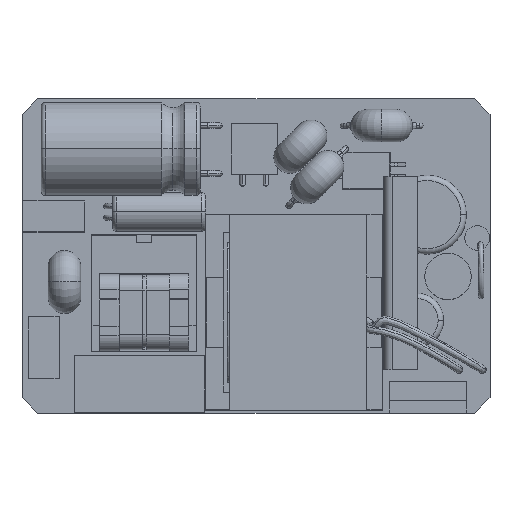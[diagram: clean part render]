
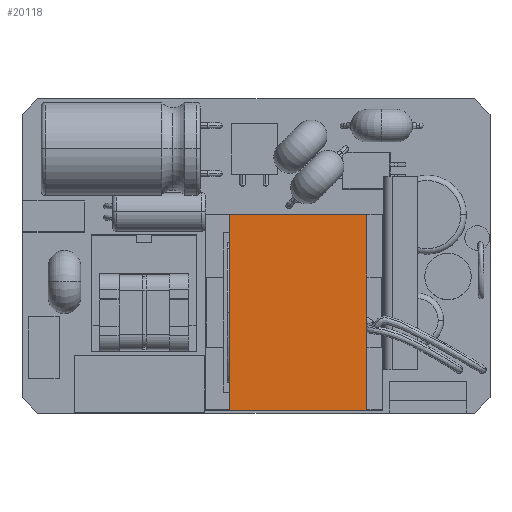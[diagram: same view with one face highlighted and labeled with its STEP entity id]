
A CAD part, top view. The second image highlights one B-rep face of the part: STEP entity #20118.
In plain terms, the highlighted planar face has unit normal (0, 0, 1).
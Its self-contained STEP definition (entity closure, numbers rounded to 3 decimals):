
#2233 = LINE ( 'NONE', #2798, #21878 ) ;
#2430 = CARTESIAN_POINT ( 'NONE',  ( 75.644, 86.568, 16.7 ) ) ;
#2798 = CARTESIAN_POINT ( 'NONE',  ( 93.35, 86.568, 16.7 ) ) ;
#4294 = EDGE_CURVE ( 'NONE', #14590, #9035, #8850, .T. ) ;
#4600 = DIRECTION ( 'NONE',  ( 1., 0., 0. ) ) ;
#6119 = VECTOR ( 'NONE', #8098, 1000. ) ;
#6388 = ORIENTED_EDGE ( 'NONE', *, *, #4294, .F. ) ;
#6738 = ORIENTED_EDGE ( 'NONE', *, *, #20467, .T. ) ;
#7598 = ORIENTED_EDGE ( 'NONE', *, *, #22284, .T. ) ;
#7865 = ORIENTED_EDGE ( 'NONE', *, *, #22782, .F. ) ;
#8098 = DIRECTION ( 'NONE',  ( 0., -1., 0. ) ) ;
#8361 = DIRECTION ( 'NONE',  ( 0., -1., 0. ) ) ;
#8529 = DIRECTION ( 'NONE',  ( 0., 0., -1. ) ) ;
#8704 = LINE ( 'NONE', #20214, #23997 ) ;
#8779 = DIRECTION ( 'NONE',  ( 1., 0., 0. ) ) ;
#8850 = LINE ( 'NONE', #23771, #22931 ) ;
#9035 = VERTEX_POINT ( 'NONE', #21482 ) ;
#11454 = FACE_OUTER_BOUND ( 'NONE', #15991, .T. ) ;
#12145 = CARTESIAN_POINT ( 'NONE',  ( 75.644, 86.568, 16.7 ) ) ;
#12295 = PLANE ( 'NONE',  #16550 ) ;
#12350 = LINE ( 'NONE', #2430, #6119 ) ;
#13625 = CARTESIAN_POINT ( 'NONE',  ( 75.644, 61.314, 16.7 ) ) ;
#14590 = VERTEX_POINT ( 'NONE', #12145 ) ;
#15991 = EDGE_LOOP ( 'NONE', ( #6388, #6738, #7598, #7865 ) ) ;
#16550 = AXIS2_PLACEMENT_3D ( 'NONE', #19979, #8529, #21923 ) ;
#18116 = VERTEX_POINT ( 'NONE', #13625 ) ;
#18745 = VERTEX_POINT ( 'NONE', #22843 ) ;
#19979 = CARTESIAN_POINT ( 'NONE',  ( 0., 0., 16.7 ) ) ;
#20118 = ADVANCED_FACE ( 'NONE', ( #11454 ), #12295, .F. ) ;
#20214 = CARTESIAN_POINT ( 'NONE',  ( 75.644, 61.314, 16.7 ) ) ;
#20467 = EDGE_CURVE ( 'NONE', #14590, #18116, #12350, .T. ) ;
#21482 = CARTESIAN_POINT ( 'NONE',  ( 93.35, 86.568, 16.7 ) ) ;
#21878 = VECTOR ( 'NONE', #8361, 1000. ) ;
#21923 = DIRECTION ( 'NONE',  ( -1., 0., 0. ) ) ;
#22284 = EDGE_CURVE ( 'NONE', #18116, #18745, #8704, .T. ) ;
#22782 = EDGE_CURVE ( 'NONE', #9035, #18745, #2233, .T. ) ;
#22843 = CARTESIAN_POINT ( 'NONE',  ( 93.35, 61.314, 16.7 ) ) ;
#22931 = VECTOR ( 'NONE', #4600, 1000. ) ;
#23771 = CARTESIAN_POINT ( 'NONE',  ( 75.644, 86.568, 16.7 ) ) ;
#23997 = VECTOR ( 'NONE', #8779, 1000. ) ;
